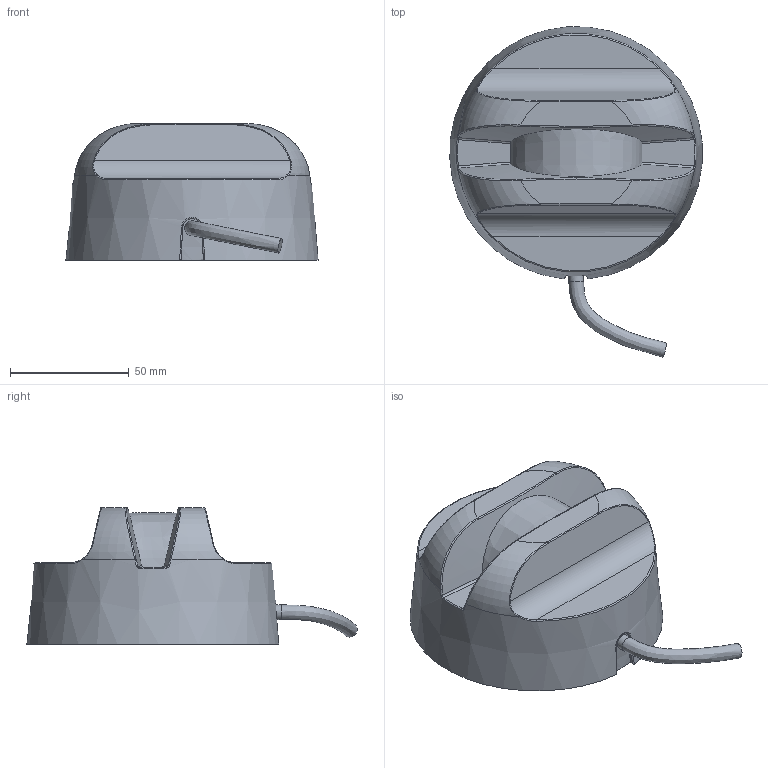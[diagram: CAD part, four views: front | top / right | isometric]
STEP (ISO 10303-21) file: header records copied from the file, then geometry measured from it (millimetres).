
FILE_DESCRIPTION(/* description */ ('Unknown'),/* implementation_level */ '2;1');
FILE_NAME(/* name */ 'Agame',/* time_stamp */ '2024-05-24T11:56:07+02:00',/* author */ ('Unknown'),/* organization */ ('Unknown'),/* preprocessor_version */ 'ST-DEVELOPER v19.4',/* originating_system */ 'Solid Edge',/* authorisation */ 'Unknown');
FILE_SCHEMA (('AUTOMOTIVE_DESIGN {1 0 10303 214 3 1 1}'));
Length unit declared in the file: millimetre
Products named in the file (1): Agame
Bounding box: 106.25 x 139.12 x 57.5 mm (x, y, z)
Volume: 367945 mm3; surface area: 34945.3 mm2
Topology: 1 solids, 1 shells, 84 faces, 203 edges, 120 vertices
Faces by surface type: cylinder 28, bspline 23, plane 17, torus 13, sphere 2, cone 1
Full cylindrical faces by diameter (mm): 6.2 x1, 102.418 x1
Entity records: 5211 total; most frequent: CARTESIAN_POINT 2940, ORIENTED_EDGE 386, DIRECTION 278, EDGE_CURVE 193, AXIS2_PLACEMENT_3D 126, VERTEX_POINT 118, B_SPLINE_CURVE_WITH_KNOTS 103, EDGE_LOOP 91
